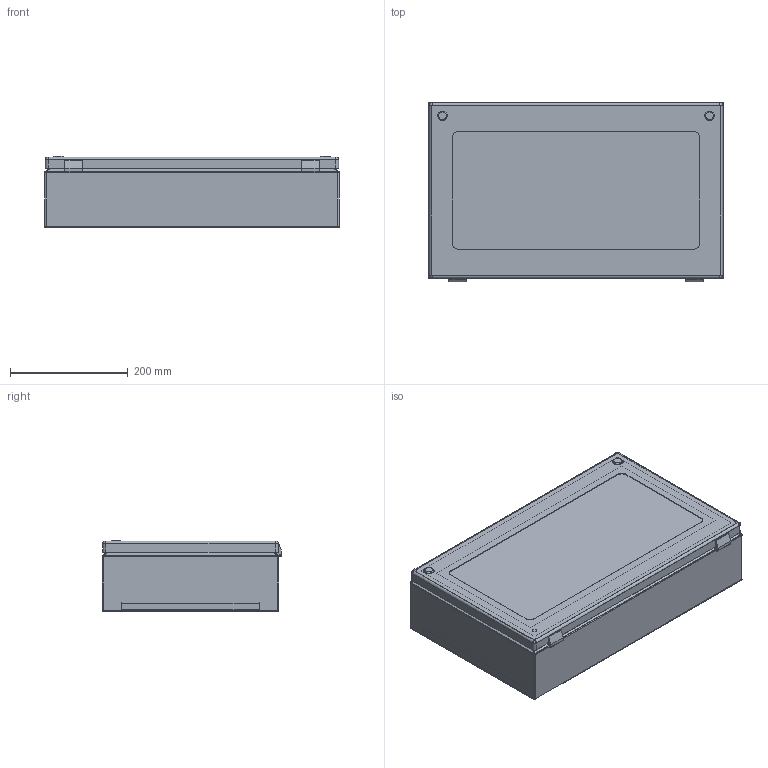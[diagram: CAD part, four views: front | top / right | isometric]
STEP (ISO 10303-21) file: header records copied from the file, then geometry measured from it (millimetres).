
FILE_DESCRIPTION (( 'STEP AP203' ), '1' );
FILE_NAME ('EG050312.AV.STEP', '2023-09-01T14:52:11', ( '' ), ( '' ), 'SwSTEP 2.0', 'SolidWorks 2022', '' );
FILE_SCHEMA (( 'CONFIG_CONTROL_DESIGN' ));
Length unit declared in the file: millimetre
Products named in the file (3): AR_EGRAN.AV_pannello_0500x0300; EG050312.AV; AR_EGRAN.AV_involucro_0500x0300x120
Assembly tree (2 placements, depth 2):
  EG050312.AV
    AR_EGRAN.AV_involucro_0500x0300x120
    AR_EGRAN.AV_pannello_0500x0300
Bounding box: 500 x 305.3 x 121.5 mm (x, y, z)
Volume: 904773.4 mm3; surface area: 1077041.9 mm2
Topology: 2 solids, 2 shells, 286 faces, 721 edges, 432 vertices
Faces by surface type: cylinder 141, plane 99, torus 22, sphere 16, bspline 8
Full cylindrical faces by diameter (mm): 2.5 x2, 4.2 x30, 4.5 x2, 5.2 x4, 5.5 x1, 6 x1, 8 x1, 10.2 x4, 16 x2
Entity records: 8771 total; most frequent: CARTESIAN_POINT 1828, DIRECTION 1442, ORIENTED_EDGE 1258, EDGE_CURVE 629, AXIS2_PLACEMENT_3D 563, EDGE_LOOP 434, VERTEX_POINT 409, FACE_OUTER_BOUND 339
